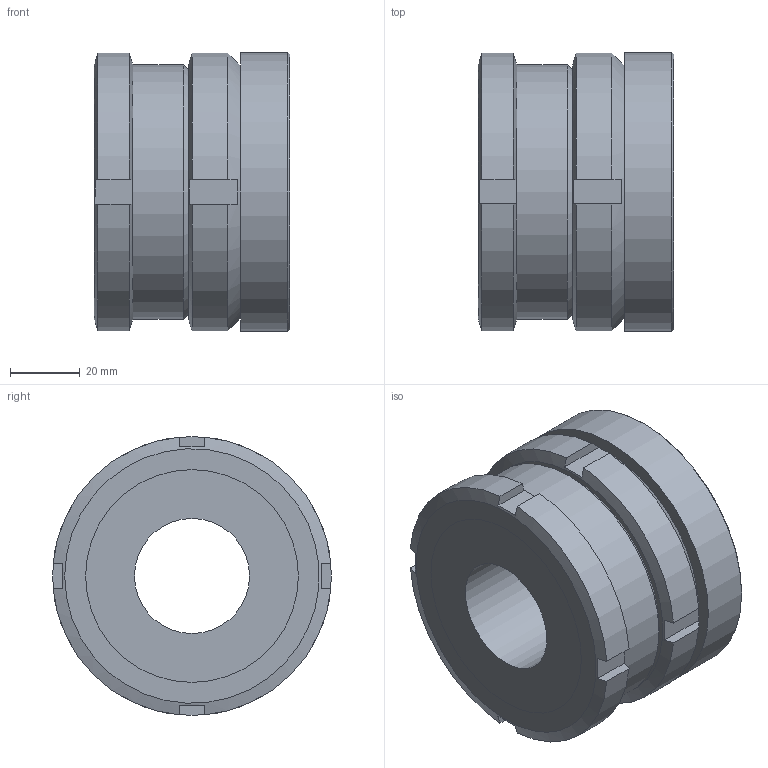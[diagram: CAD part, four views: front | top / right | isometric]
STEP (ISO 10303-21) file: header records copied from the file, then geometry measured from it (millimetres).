
FILE_DESCRIPTION( ( 'STEP AP203' ), '1' );
FILE_NAME( 'C:/Temp/Ganter_Step_05_03_2020/data/3_2/gn350_2/gn_350_2_st/Levelling set GN 350.2-80-33-56-ST (0-0).stp', '2020-03-13T05:28:01', ( 'License CC BY-ND 4.0' ), ( 'CADENAS' ), ' ', 'PARTsolutions', ' ' );
FILE_SCHEMA( ( 'CONFIG_CONTROL_DESIGN' ) );
Length unit declared in the file: millimetre
Products named in the file (4): Levelling set GN 350.2-80-33-56-ST (0-0); _Levelling set GN 350.2-80-33-56-ST-G; _Levelling set GN 350.2-80-33-56-ST-K; _Levelling set GN 350.2-80-33-56-ST-P(0)
Assembly tree (3 placements, depth 2):
  Levelling set GN 350.2-80-33-56-ST (0-0)
    _Levelling set GN 350.2-80-33-56-ST-G
    _Levelling set GN 350.2-80-33-56-ST-K
    _Levelling set GN 350.2-80-33-56-ST-P(0)
Bounding box: 56 x 80 x 80 mm (x, y, z)
Volume: 208002 mm3; surface area: 51112.1 mm2
Topology: 3 solids, 3 shells, 62 faces, 149 edges, 99 vertices
Faces by surface type: plane 36, cylinder 19, cone 5, sphere 2
Full cylindrical faces by diameter (mm): 33 x1, 48 x1, 53.529 x1, 54.5 x1, 57.835 x1, 60 x2, 61 x2, 73 x1, 80 x1
Entity records: 1925 total; most frequent: CARTESIAN_POINT 462, DIRECTION 276, ORIENTED_EDGE 248, EDGE_CURVE 124, AXIS2_PLACEMENT_3D 122, EDGE_LOOP 92, VERTEX_POINT 92, FACE_OUTER_BOUND 75
